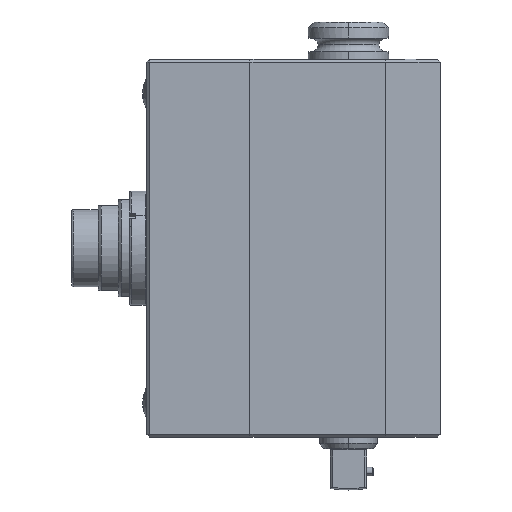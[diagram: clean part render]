
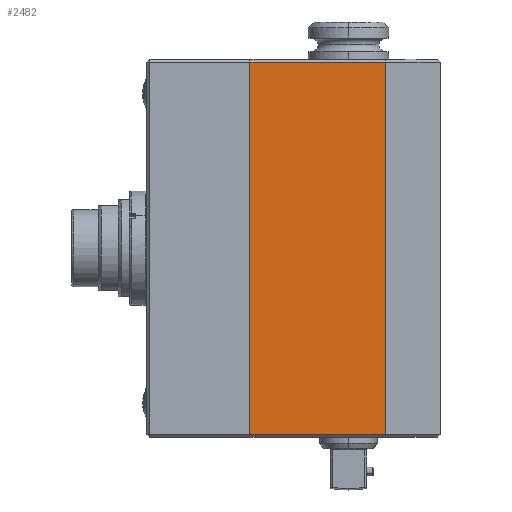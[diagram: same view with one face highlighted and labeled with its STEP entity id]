
A CAD part, left-side view. The second image highlights one B-rep face of the part: STEP entity #2482.
In plain terms, the highlighted planar face has unit normal (-1, 0, 0).
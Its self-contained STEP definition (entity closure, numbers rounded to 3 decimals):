
#251 = ORIENTED_EDGE ( 'NONE', *, *, #3724, .T. ) ;
#533 = VERTEX_POINT ( 'NONE', #8114 ) ;
#604 = DIRECTION ( 'NONE',  ( -1., 0., 0. ) ) ;
#780 = VERTEX_POINT ( 'NONE', #11530 ) ;
#942 = ORIENTED_EDGE ( 'NONE', *, *, #3932, .T. ) ;
#1039 = CARTESIAN_POINT ( 'NONE',  ( -16., 33.2, -0.5 ) ) ;
#1056 = EDGE_CURVE ( 'NONE', #780, #533, #12414, .T. ) ;
#1762 = DIRECTION ( 'NONE',  ( 0., 0., 1. ) ) ;
#2482 = ADVANCED_FACE ( 'NONE', ( #12218 ), #3804, .T. ) ;
#3724 = EDGE_CURVE ( 'NONE', #533, #4031, #12823, .T. ) ;
#3736 = EDGE_CURVE ( 'NONE', #780, #11575, #9654, .T. ) ;
#3804 = PLANE ( 'NONE',  #3975 ) ;
#3932 = EDGE_CURVE ( 'NONE', #4031, #11575, #10822, .T. ) ;
#3975 = AXIS2_PLACEMENT_3D ( 'NONE', #10232, #604, #8112 ) ;
#4031 = VERTEX_POINT ( 'NONE', #6577 ) ;
#4602 = VECTOR ( 'NONE', #13565, 1000. ) ;
#6122 = ORIENTED_EDGE ( 'NONE', *, *, #1056, .T. ) ;
#6168 = DIRECTION ( 'NONE',  ( 0., -1., 0. ) ) ;
#6577 = CARTESIAN_POINT ( 'NONE',  ( -16., 9.5, -0.5 ) ) ;
#6783 = VECTOR ( 'NONE', #1762, 1000. ) ;
#7164 = CARTESIAN_POINT ( 'NONE',  ( -16., 33.2, -66. ) ) ;
#7373 = EDGE_LOOP ( 'NONE', ( #11774, #6122, #251, #942 ) ) ;
#7959 = VECTOR ( 'NONE', #9642, 1000. ) ;
#8112 = DIRECTION ( 'NONE',  ( 0., 0., 1. ) ) ;
#8114 = CARTESIAN_POINT ( 'NONE',  ( -16., 9.5, -65.5 ) ) ;
#9642 = DIRECTION ( 'NONE',  ( 0., 1., 0. ) ) ;
#9654 = LINE ( 'NONE', #7164, #6783 ) ;
#9917 = VECTOR ( 'NONE', #6168, 1000. ) ;
#10232 = CARTESIAN_POINT ( 'NONE',  ( -16., 33.2, -66. ) ) ;
#10822 = LINE ( 'NONE', #1039, #7959 ) ;
#11530 = CARTESIAN_POINT ( 'NONE',  ( -16., 33.2, -65.5 ) ) ;
#11575 = VERTEX_POINT ( 'NONE', #13634 ) ;
#11774 = ORIENTED_EDGE ( 'NONE', *, *, #3736, .F. ) ;
#12218 = FACE_OUTER_BOUND ( 'NONE', #7373, .T. ) ;
#12414 = LINE ( 'NONE', #13644, #9917 ) ;
#12502 = CARTESIAN_POINT ( 'NONE',  ( -16., 9.5, -66. ) ) ;
#12823 = LINE ( 'NONE', #12502, #4602 ) ;
#13565 = DIRECTION ( 'NONE',  ( 0., 0., 1. ) ) ;
#13634 = CARTESIAN_POINT ( 'NONE',  ( -16., 33.2, -0.5 ) ) ;
#13644 = CARTESIAN_POINT ( 'NONE',  ( -16., 9.5, -65.5 ) ) ;
